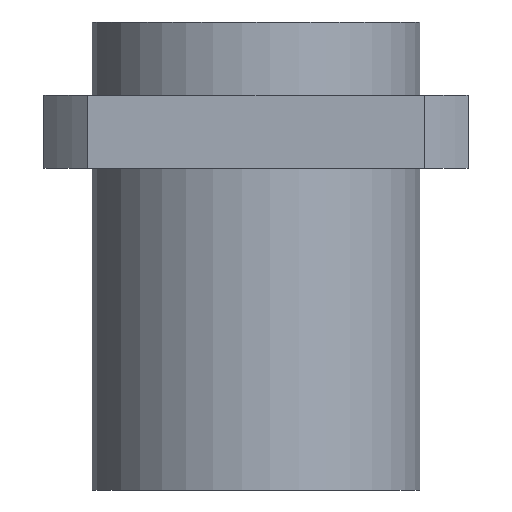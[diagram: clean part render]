
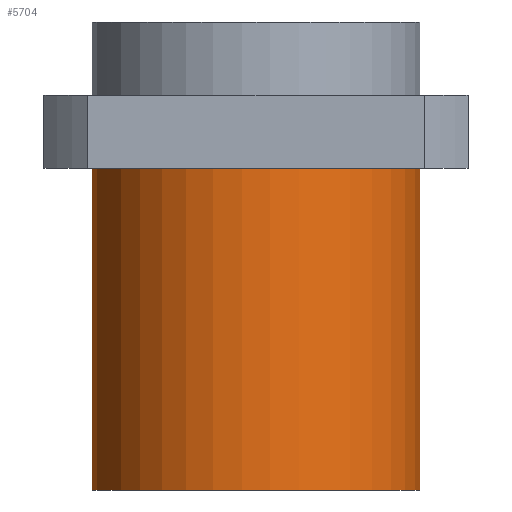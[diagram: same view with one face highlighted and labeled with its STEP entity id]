
A CAD part, front view. The second image highlights one B-rep face of the part: STEP entity #5704.
In plain terms, the highlighted cylindrical face has radius 22.5 mm (diameter 45 mm), a full revolution.
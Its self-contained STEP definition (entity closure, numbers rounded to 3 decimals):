
#87=CYLINDRICAL_SURFACE('',#6080,22.5);
#104=CIRCLE('',#6047,22.5);
#128=CIRCLE('',#6081,22.5);
#552=ORIENTED_EDGE('',*,*,#2190,.T.);
#553=ORIENTED_EDGE('',*,*,#2024,.T.);
#2024=EDGE_CURVE('',#2847,#2847,#104,.F.);
#2190=EDGE_CURVE('',#3005,#3005,#128,.T.);
#2847=VERTEX_POINT('',#8263);
#3005=VERTEX_POINT('',#9101);
#4675=EDGE_LOOP('',(#552));
#4676=EDGE_LOOP('',(#553));
#5088=FACE_BOUND('',#4675,.T.);
#5089=FACE_BOUND('',#4676,.T.);
#5704=ADVANCED_FACE('',(#5088,#5089),#87,.T.);
#6047=AXIS2_PLACEMENT_3D('',#8262,#6451,#6452);
#6080=AXIS2_PLACEMENT_3D('',#9099,#6631,#6632);
#6081=AXIS2_PLACEMENT_3D('',#9100,#6633,#6634);
#6451=DIRECTION('',(0.,0.,1.));
#6452=DIRECTION('',(0.707,-0.707,0.));
#6631=DIRECTION('',(0.,0.,1.));
#6632=DIRECTION('',(0.707,-0.707,0.));
#6633=DIRECTION('',(0.,0.,1.));
#6634=DIRECTION('',(0.707,-0.707,0.));
#8262=CARTESIAN_POINT('',(0.,0.,-10.));
#8263=CARTESIAN_POINT('',(15.91,-15.91,-10.));
#9099=CARTESIAN_POINT('',(0.,0.,-54.));
#9100=CARTESIAN_POINT('',(0.,0.,-54.));
#9101=CARTESIAN_POINT('',(15.91,-15.91,-54.));
